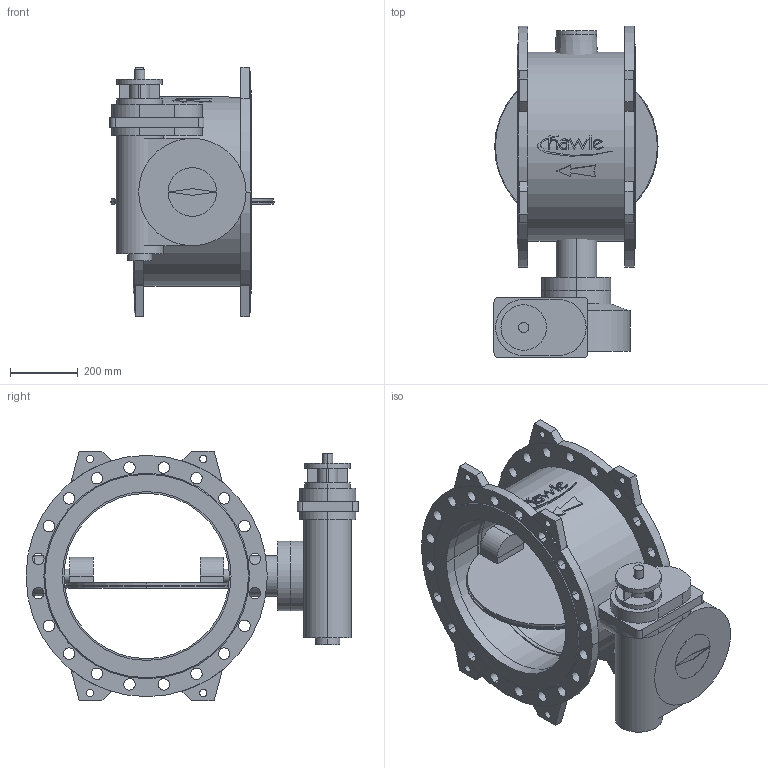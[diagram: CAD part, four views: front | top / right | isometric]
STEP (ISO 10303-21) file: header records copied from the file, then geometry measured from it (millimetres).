
FILE_DESCRIPTION(('STEP AP214'),'1');
FILE_NAME('S:/EK/USER/CAT6/3DHomepage_27-04-2012/neu_08-01-2013/9881K/9881K_PN16_DN500.STP','2013-03-11T15:32:26',(' '),(' '),'Spatial InterOp 3D',' ',' ');
FILE_SCHEMA(('automotive_design'));
Length unit declared in the file: millimetre
Products named in the file (51): 3D-Objekt
Bounding box: 486 x 983.5 x 740 mm (x, y, z)
Volume: 61854986.7 mm3; surface area: 4567708.1 mm2
Topology: 51 solids, 51 shells, 429 faces, 972 edges, 648 vertices
Faces by surface type: plane 212, cylinder 209, cone 8
Entity records: 17003 total; most frequent: DIRECTION 2366, CARTESIAN_POINT 2100, ORIENTED_EDGE 1944, EDGE_CURVE 972, AXIS2_PLACEMENT_3D 914, VERTEX_POINT 648, EDGE_LOOP 540, LINE 538
